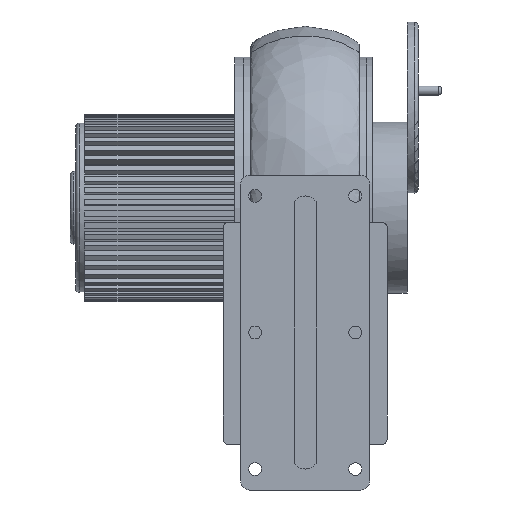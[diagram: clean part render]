
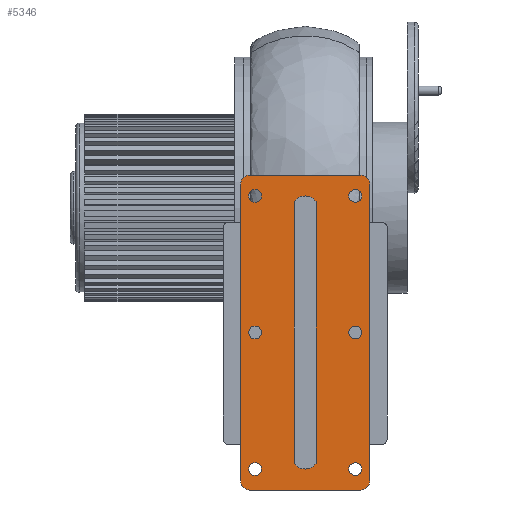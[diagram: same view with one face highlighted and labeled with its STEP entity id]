
A CAD part, front view. The second image highlights one B-rep face of the part: STEP entity #5346.
In plain terms, the highlighted planar face has unit normal (0, -1, 0).
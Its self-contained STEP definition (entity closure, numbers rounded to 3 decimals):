
#109=LINE('',#7721,#680);
#112=LINE('',#7729,#683);
#115=LINE('',#7737,#686);
#120=LINE('',#7754,#691);
#124=LINE('',#7766,#695);
#126=LINE('',#7787,#697);
#680=VECTOR('',#6167,1000.);
#683=VECTOR('',#6176,1000.);
#686=VECTOR('',#6185,1000.);
#691=VECTOR('',#6202,1000.);
#695=VECTOR('',#6214,1000.);
#697=VECTOR('',#6242,1000.);
#1319=ORIENTED_EDGE('',*,*,#2871,.F.);
#1320=ORIENTED_EDGE('',*,*,#2870,.F.);
#1321=ORIENTED_EDGE('',*,*,#2869,.F.);
#1322=ORIENTED_EDGE('',*,*,#2868,.F.);
#1323=ORIENTED_EDGE('',*,*,#2867,.F.);
#1324=ORIENTED_EDGE('',*,*,#2866,.F.);
#1325=ORIENTED_EDGE('',*,*,#2854,.F.);
#1326=ORIENTED_EDGE('',*,*,#2858,.F.);
#1327=ORIENTED_EDGE('',*,*,#2861,.F.);
#1328=ORIENTED_EDGE('',*,*,#2864,.F.);
#1329=ORIENTED_EDGE('',*,*,#2839,.T.);
#1330=ORIENTED_EDGE('',*,*,#2842,.T.);
#1331=ORIENTED_EDGE('',*,*,#2844,.T.);
#1332=ORIENTED_EDGE('',*,*,#2846,.T.);
#1333=ORIENTED_EDGE('',*,*,#2848,.T.);
#1334=ORIENTED_EDGE('',*,*,#2850,.T.);
#1335=ORIENTED_EDGE('',*,*,#2852,.T.);
#1336=ORIENTED_EDGE('',*,*,#2872,.T.);
#2839=EDGE_CURVE('',#3629,#3630,#4168,.T.);
#2842=EDGE_CURVE('',#3630,#3631,#109,.T.);
#2844=EDGE_CURVE('',#3631,#3632,#4169,.T.);
#2846=EDGE_CURVE('',#3632,#3633,#112,.T.);
#2848=EDGE_CURVE('',#3633,#3634,#4170,.T.);
#2850=EDGE_CURVE('',#3634,#3635,#115,.T.);
#2852=EDGE_CURVE('',#3635,#3636,#4171,.T.);
#2854=EDGE_CURVE('',#3637,#3638,#4172,.T.);
#2858=EDGE_CURVE('',#3641,#3637,#120,.T.);
#2861=EDGE_CURVE('',#3643,#3641,#4174,.T.);
#2864=EDGE_CURVE('',#3638,#3643,#124,.T.);
#2866=EDGE_CURVE('',#3645,#3645,#4176,.T.);
#2867=EDGE_CURVE('',#3646,#3646,#4177,.T.);
#2868=EDGE_CURVE('',#3647,#3647,#4178,.T.);
#2869=EDGE_CURVE('',#3648,#3648,#4179,.T.);
#2870=EDGE_CURVE('',#3649,#3649,#4180,.T.);
#2871=EDGE_CURVE('',#3650,#3650,#4181,.T.);
#2872=EDGE_CURVE('',#3636,#3629,#126,.T.);
#3629=VERTEX_POINT('',#7716);
#3630=VERTEX_POINT('',#7717);
#3631=VERTEX_POINT('',#7722);
#3632=VERTEX_POINT('',#7726);
#3633=VERTEX_POINT('',#7730);
#3634=VERTEX_POINT('',#7734);
#3635=VERTEX_POINT('',#7738);
#3636=VERTEX_POINT('',#7742);
#3637=VERTEX_POINT('',#7746);
#3638=VERTEX_POINT('',#7747);
#3641=VERTEX_POINT('',#7755);
#3643=VERTEX_POINT('',#7761);
#3645=VERTEX_POINT('',#7770);
#3646=VERTEX_POINT('',#7773);
#3647=VERTEX_POINT('',#7776);
#3648=VERTEX_POINT('',#7779);
#3649=VERTEX_POINT('',#7782);
#3650=VERTEX_POINT('',#7785);
#4168=CIRCLE('',#5651,5.);
#4169=CIRCLE('',#5654,5.);
#4170=CIRCLE('',#5657,5.);
#4171=CIRCLE('',#5660,5.);
#4172=CIRCLE('',#5662,7.289);
#4174=CIRCLE('',#5666,7.289);
#4176=CIRCLE('',#5670,3.5);
#4177=CIRCLE('',#5672,3.5);
#4178=CIRCLE('',#5674,3.5);
#4179=CIRCLE('',#5676,3.5);
#4180=CIRCLE('',#5678,3.5);
#4181=CIRCLE('',#5680,3.5);
#4387=EDGE_LOOP('',(#1319));
#4388=EDGE_LOOP('',(#1320));
#4389=EDGE_LOOP('',(#1321));
#4390=EDGE_LOOP('',(#1322));
#4391=EDGE_LOOP('',(#1323));
#4392=EDGE_LOOP('',(#1324));
#4393=EDGE_LOOP('',(#1325,#1326,#1327,#1328));
#4394=EDGE_LOOP('',(#1329,#1330,#1331,#1332,#1333,#1334,#1335,#1336));
#4749=FACE_BOUND('',#4387,.T.);
#4750=FACE_BOUND('',#4388,.T.);
#4751=FACE_BOUND('',#4389,.T.);
#4752=FACE_BOUND('',#4390,.T.);
#4753=FACE_BOUND('',#4391,.T.);
#4754=FACE_BOUND('',#4392,.T.);
#4755=FACE_BOUND('',#4393,.T.);
#4756=FACE_BOUND('',#4394,.T.);
#5089=PLANE('',#5682);
#5346=ADVANCED_FACE('',(#4749,#4750,#4751,#4752,#4753,#4754,#4755,#4756),
#5089,.T.);
#5651=AXIS2_PLACEMENT_3D('',#7715,#6161,#6162);
#5654=AXIS2_PLACEMENT_3D('',#7725,#6171,#6172);
#5657=AXIS2_PLACEMENT_3D('',#7733,#6180,#6181);
#5660=AXIS2_PLACEMENT_3D('',#7741,#6189,#6190);
#5662=AXIS2_PLACEMENT_3D('',#7745,#6194,#6195);
#5666=AXIS2_PLACEMENT_3D('',#7760,#6207,#6208);
#5670=AXIS2_PLACEMENT_3D('',#7769,#6218,#6219);
#5672=AXIS2_PLACEMENT_3D('',#7772,#6222,#6223);
#5674=AXIS2_PLACEMENT_3D('',#7775,#6226,#6227);
#5676=AXIS2_PLACEMENT_3D('',#7778,#6230,#6231);
#5678=AXIS2_PLACEMENT_3D('',#7781,#6234,#6235);
#5680=AXIS2_PLACEMENT_3D('',#7784,#6238,#6239);
#5682=AXIS2_PLACEMENT_3D('',#7788,#6243,#6244);
#6161=DIRECTION('',(0.,-1.,0.));
#6162=DIRECTION('',(1.,0.,0.));
#6167=DIRECTION('',(1.,0.,0.));
#6171=DIRECTION('',(0.,-1.,0.));
#6172=DIRECTION('',(-1.,0.,0.));
#6176=DIRECTION('',(0.,0.,1.));
#6180=DIRECTION('',(0.,-1.,0.));
#6181=DIRECTION('',(-1.,0.,0.));
#6185=DIRECTION('',(-1.,0.,0.));
#6189=DIRECTION('',(0.,-1.,0.));
#6190=DIRECTION('',(1.,0.,0.));
#6194=DIRECTION('',(0.,-1.,0.));
#6195=DIRECTION('',(1.,0.,0.));
#6202=DIRECTION('',(0.,0.,-1.));
#6207=DIRECTION('',(0.,-1.,0.));
#6208=DIRECTION('',(1.,0.,0.));
#6214=DIRECTION('',(0.,0.,1.));
#6218=DIRECTION('',(0.,-1.,0.));
#6219=DIRECTION('',(1.,0.,0.));
#6222=DIRECTION('',(0.,-1.,0.));
#6223=DIRECTION('',(1.,0.,0.));
#6226=DIRECTION('',(0.,-1.,0.));
#6227=DIRECTION('',(1.,0.,0.));
#6230=DIRECTION('',(0.,-1.,0.));
#6231=DIRECTION('',(1.,0.,0.));
#6234=DIRECTION('',(0.,-1.,0.));
#6235=DIRECTION('',(1.,0.,0.));
#6238=DIRECTION('',(0.,-1.,0.));
#6239=DIRECTION('',(1.,0.,0.));
#6242=DIRECTION('',(0.,0.,-1.));
#6243=DIRECTION('',(0.,-1.,0.));
#6244=DIRECTION('',(0.,0.,-1.));
#7715=CARTESIAN_POINT('',(-30.5,-155.,-150.));
#7716=CARTESIAN_POINT('',(-35.5,-155.,-150.));
#7717=CARTESIAN_POINT('',(-30.5,-155.,-155.));
#7721=CARTESIAN_POINT('',(-30.5,-155.,-155.));
#7722=CARTESIAN_POINT('',(30.5,-155.,-155.));
#7725=CARTESIAN_POINT('',(30.5,-155.,-150.));
#7726=CARTESIAN_POINT('',(35.5,-155.,-150.));
#7729=CARTESIAN_POINT('',(35.5,-155.,-150.));
#7730=CARTESIAN_POINT('',(35.5,-155.,13.));
#7733=CARTESIAN_POINT('',(30.5,-155.,13.));
#7734=CARTESIAN_POINT('',(30.5,-155.,18.));
#7737=CARTESIAN_POINT('',(30.5,-155.,18.));
#7738=CARTESIAN_POINT('',(-30.5,-155.,18.));
#7741=CARTESIAN_POINT('',(-30.5,-155.,13.));
#7742=CARTESIAN_POINT('',(-35.5,-155.,13.));
#7745=CARTESIAN_POINT('',(0.,-155.,-136.211));
#7746=CARTESIAN_POINT('',(-6.,-155.,-140.35));
#7747=CARTESIAN_POINT('',(6.,-155.,-140.35));
#7754=CARTESIAN_POINT('',(-6.,-155.,3.35));
#7755=CARTESIAN_POINT('',(-6.,-155.,3.35));
#7760=CARTESIAN_POINT('',(0.,-155.,-0.789));
#7761=CARTESIAN_POINT('',(6.,-155.,3.35));
#7766=CARTESIAN_POINT('',(6.,-155.,-140.35));
#7769=CARTESIAN_POINT('',(-27.5,-155.,6.5));
#7770=CARTESIAN_POINT('',(-24.,-155.,6.5));
#7772=CARTESIAN_POINT('',(27.5,-155.,6.5));
#7773=CARTESIAN_POINT('',(31.,-155.,6.5));
#7775=CARTESIAN_POINT('',(27.5,-155.,-68.5));
#7776=CARTESIAN_POINT('',(31.,-155.,-68.5));
#7778=CARTESIAN_POINT('',(-27.5,-155.,-68.5));
#7779=CARTESIAN_POINT('',(-24.,-155.,-68.5));
#7781=CARTESIAN_POINT('',(27.5,-155.,-143.5));
#7782=CARTESIAN_POINT('',(31.,-155.,-143.5));
#7784=CARTESIAN_POINT('',(-27.5,-155.,-143.5));
#7785=CARTESIAN_POINT('',(-24.,-155.,-143.5));
#7787=CARTESIAN_POINT('',(-35.5,-155.,13.));
#7788=CARTESIAN_POINT('',(-30.5,-155.,-150.));
